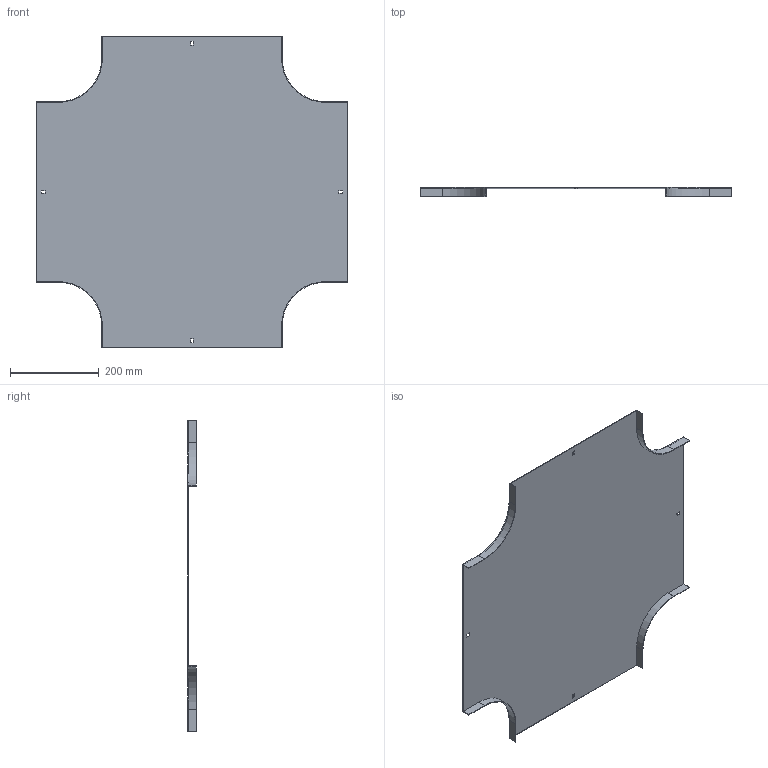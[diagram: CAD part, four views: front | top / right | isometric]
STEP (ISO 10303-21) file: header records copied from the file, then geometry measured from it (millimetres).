
FILE_DESCRIPTION (( 'STEP AP214' ), '1' );
FILE_NAME ('17N1R400.step', '2025-02-21T09:52:56', ( '' ), ( '' ), 'SwSTEP 2.0', 'SolidWorks 2023', '' );
FILE_SCHEMA (( 'AUTOMOTIVE_DESIGN' ));
Length unit declared in the file: millimetre
Products named in the file (1): 17N1R400
Bounding box: 704 x 20 x 704 mm (x, y, z)
Volume: 651657.3 mm3; surface area: 873254.7 mm2
Topology: 1 solids, 1 shells, 50 faces, 144 edges, 96 vertices
Faces by surface type: plane 42, cylinder 8
Entity records: 1663 total; most frequent: CARTESIAN_POINT 291, ORIENTED_EDGE 288, DIRECTION 262, EDGE_CURVE 144, VECTOR 128, LINE 128, VERTEX_POINT 96, AXIS2_PLACEMENT_3D 67
